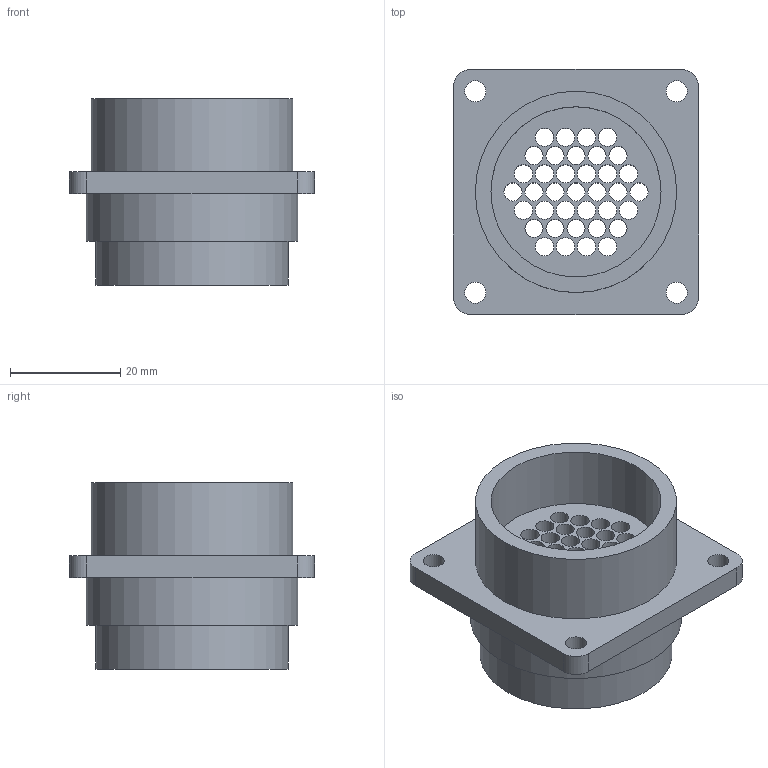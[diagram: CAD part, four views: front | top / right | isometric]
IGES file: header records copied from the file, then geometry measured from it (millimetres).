
Global section: file name: No Iges File Name specified; native system: AutoDesk Inventor R5.0; preprocessor: AutoDesk Inventor Iges Exporter R5.0; author: No Author specified; organization: No Organization specified; date: 20040109.204602; units: inch
Bounding box: 44.45 x 44.45 x 33.78 mm (x, y, z)
Surface area: 17199.5 mm2 (no closed solid volume)
Topology: 0 solids, 0 shells, 59 faces, 314 edges, 269 vertices
Faces by surface type: bspline 28, revolution 22, plane 9
